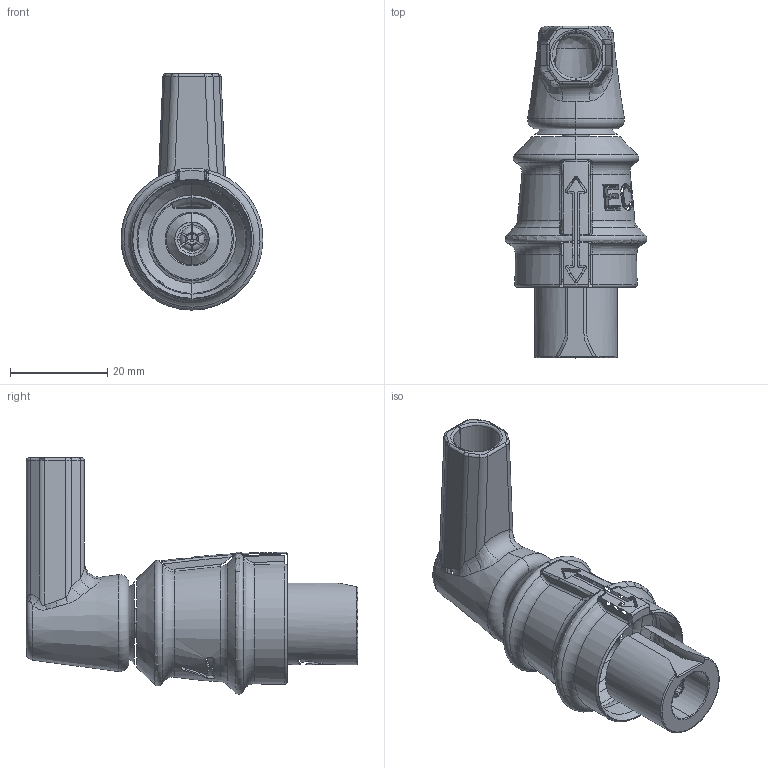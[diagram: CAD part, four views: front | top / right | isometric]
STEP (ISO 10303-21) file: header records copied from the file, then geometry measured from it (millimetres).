
FILE_DESCRIPTION((''),'2;1');
FILE_NAME('LCN-EC5X1-INLM_ASM','2025-08-24T13:04:06',('Neil'),(''),'CREO PARAMETRIC BY PTC INC, 2023134','CREO PARAMETRIC BY PTC INC, 2023134','');
FILE_SCHEMA(('CONFIG_CONTROL_DESIGN'));
Length unit declared in the file: millimetre
Products named in the file (1): LCN-EC5X1-INLM_ASM
Bounding box: 29.2 x 68.24 x 48.61 mm (x, y, z)
Surface area: 8927.8 mm2 (no closed solid volume)
Topology: 0 solids, 34 shells, 161 faces, 985 edges, 838 vertices
Faces by surface type: torus 39, bspline 38, plane 32, cylinder 30, cone 22
Entity records: 14805 total; most frequent: CARTESIAN_POINT 8367, ORIENTED_EDGE 1209, DIRECTION 1049, EDGE_CURVE 985, VERTEX_POINT 838, B_SPLINE_CURVE_WITH_KNOTS 421, AXIS2_PLACEMENT_3D 361, VECTOR 327
